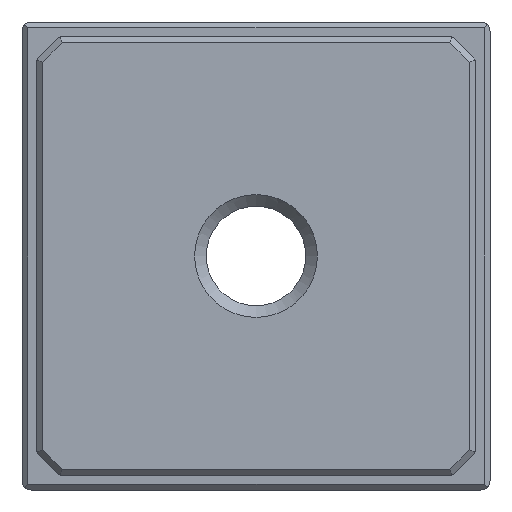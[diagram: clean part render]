
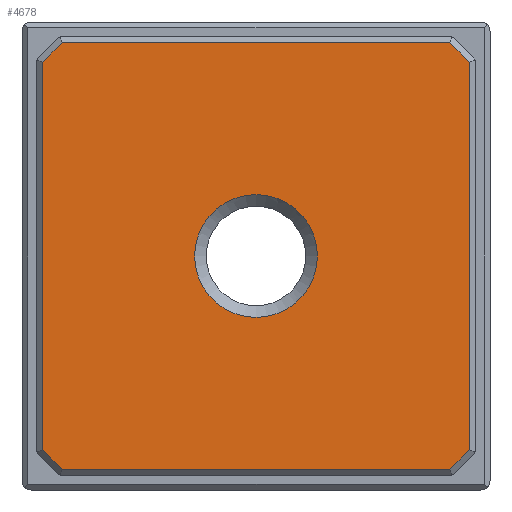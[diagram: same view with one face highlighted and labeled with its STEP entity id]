
A CAD part, front view. The second image highlights one B-rep face of the part: STEP entity #4678.
In plain terms, the highlighted planar face has unit normal (0, -1, 0).
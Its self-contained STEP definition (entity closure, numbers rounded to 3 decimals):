
#3845=CARTESIAN_POINT('',(-541.678,-516.109,-18.25));
#3846=VERTEX_POINT('',#3845);
#3853=CARTESIAN_POINT('',(-543.386,-516.109,-16.543));
#3854=VERTEX_POINT('',#3853);
#3855=CARTESIAN_POINT('',(-541.678,-516.109,-18.25));
#3856=DIRECTION('',(-0.707,0.0,0.707));
#3857=VECTOR('',#3856,2.414);
#3858=LINE('',#3855,#3857);
#3859=EDGE_CURVE('',#3846,#3854,#3858,.T.);
#3887=CARTESIAN_POINT('',(-508.593,-516.109,-18.25));
#3888=VERTEX_POINT('',#3887);
#3897=CARTESIAN_POINT('',(-541.678,-516.109,-18.25));
#3898=DIRECTION('',(1.0,0.0,0.0));
#3899=VECTOR('',#3898,33.086);
#3900=LINE('',#3897,#3899);
#3901=EDGE_CURVE('',#3846,#3888,#3900,.T.);
#3932=CARTESIAN_POINT('',(-506.886,-516.109,-16.543));
#3933=VERTEX_POINT('',#3932);
#3940=CARTESIAN_POINT('',(-506.886,-516.109,-16.543));
#3941=DIRECTION('',(-0.707,0.0,-0.707));
#3942=VECTOR('',#3941,2.414);
#3943=LINE('',#3940,#3942);
#3944=EDGE_CURVE('',#3933,#3888,#3943,.T.);
#4020=CARTESIAN_POINT('',(-506.886,-516.109,16.543));
#4021=VERTEX_POINT('',#4020);
#4030=CARTESIAN_POINT('',(-506.886,-516.109,-16.543));
#4031=DIRECTION('',(0.0,0.0,1.0));
#4032=VECTOR('',#4031,33.086);
#4033=LINE('',#4030,#4032);
#4034=EDGE_CURVE('',#3933,#4021,#4033,.T.);
#4115=CARTESIAN_POINT('',(-543.386,-516.109,16.543));
#4116=VERTEX_POINT('',#4115);
#4117=CARTESIAN_POINT('',(-543.386,-516.109,16.543));
#4118=DIRECTION('',(0.0,0.0,-1.0));
#4119=VECTOR('',#4118,33.086);
#4120=LINE('',#4117,#4119);
#4121=EDGE_CURVE('',#4116,#3854,#4120,.T.);
#4194=CARTESIAN_POINT('',(-508.593,-516.109,18.25));
#4195=VERTEX_POINT('',#4194);
#4202=CARTESIAN_POINT('',(-508.593,-516.109,18.25));
#4203=DIRECTION('',(0.707,0.0,-0.707));
#4204=VECTOR('',#4203,2.414);
#4205=LINE('',#4202,#4204);
#4206=EDGE_CURVE('',#4195,#4021,#4205,.T.);
#4282=CARTESIAN_POINT('',(-541.678,-516.109,18.25));
#4283=VERTEX_POINT('',#4282);
#4292=CARTESIAN_POINT('',(-508.593,-516.109,18.25));
#4293=DIRECTION('',(-1.0,0.0,0.0));
#4294=VECTOR('',#4293,33.086);
#4295=LINE('',#4292,#4294);
#4296=EDGE_CURVE('',#4195,#4283,#4295,.T.);
#4326=CARTESIAN_POINT('',(-543.386,-516.109,16.543));
#4327=DIRECTION('',(0.707,0.0,0.707));
#4328=VECTOR('',#4327,2.414);
#4329=LINE('',#4326,#4328);
#4330=EDGE_CURVE('',#4116,#4283,#4329,.T.);
#4643=CARTESIAN_POINT('',(-547.636,-516.109,22.5));
#4644=DIRECTION('',(0.0,-1.0,0.0));
#4645=DIRECTION('',(0.0,0.0,-1.0));
#4646=AXIS2_PLACEMENT_3D('',#4643,#4644,#4645);
#4647=PLANE('',#4646);
#4648=ORIENTED_EDGE('',*,*,#4121,.T.);
#4649=ORIENTED_EDGE('',*,*,#3859,.F.);
#4650=ORIENTED_EDGE('',*,*,#3901,.T.);
#4651=ORIENTED_EDGE('',*,*,#3944,.F.);
#4652=ORIENTED_EDGE('',*,*,#4034,.T.);
#4653=ORIENTED_EDGE('',*,*,#4206,.F.);
#4654=ORIENTED_EDGE('',*,*,#4296,.T.);
#4655=ORIENTED_EDGE('',*,*,#4330,.F.);
#4656=EDGE_LOOP('',(#4648,#4649,#4650,#4651,#4652,#4653,#4654,#4655));
#4657=FACE_OUTER_BOUND('',#4656,.T.);
#4658=CARTESIAN_POINT('',(-525.136,-516.109,5.25));
#4659=VERTEX_POINT('',#4658);
#4660=CARTESIAN_POINT('',(-525.136,-516.109,-5.25));
#4661=VERTEX_POINT('',#4660);
#4662=CARTESIAN_POINT('',(-525.136,-516.109,0.));
#4663=DIRECTION('',(0.0,-1.0,0.0));
#4664=DIRECTION('',(0.0,0.0,-1.0));
#4665=AXIS2_PLACEMENT_3D('',#4662,#4663,#4664);
#4666=CIRCLE('',#4665,5.25);
#4667=EDGE_CURVE('',#4659,#4661,#4666,.T.);
#4668=ORIENTED_EDGE('',*,*,#4667,.F.);
#4669=CARTESIAN_POINT('',(-525.136,-516.109,0.));
#4670=DIRECTION('',(0.0,-1.0,0.0));
#4671=DIRECTION('',(0.0,0.0,-1.0));
#4672=AXIS2_PLACEMENT_3D('',#4669,#4670,#4671);
#4673=CIRCLE('',#4672,5.25);
#4674=EDGE_CURVE('',#4661,#4659,#4673,.T.);
#4675=ORIENTED_EDGE('',*,*,#4674,.F.);
#4676=EDGE_LOOP('',(#4668,#4675));
#4677=FACE_BOUND('',#4676,.T.);
#4678=ADVANCED_FACE('',(#4657,#4677),#4647,.T.);
